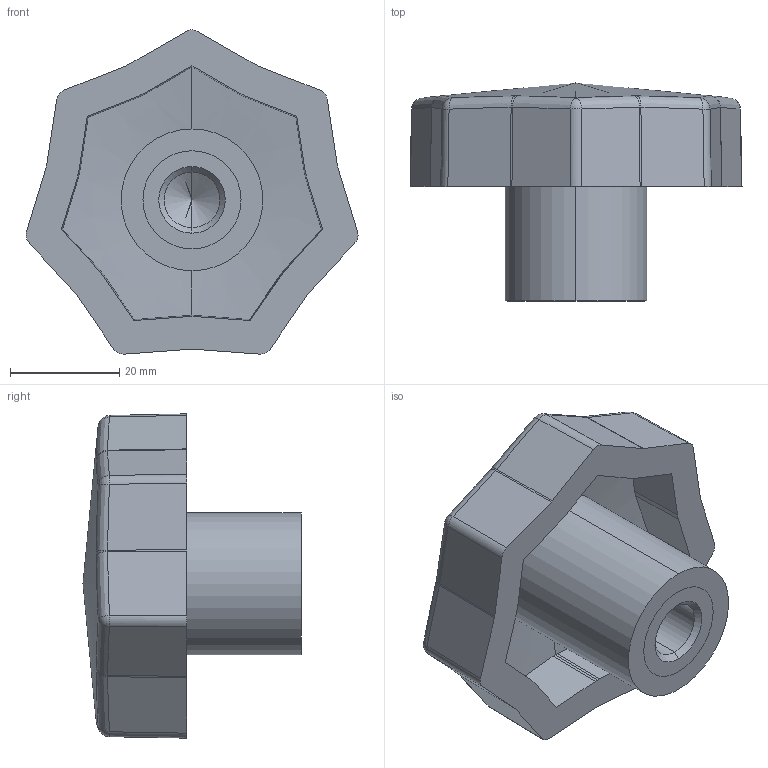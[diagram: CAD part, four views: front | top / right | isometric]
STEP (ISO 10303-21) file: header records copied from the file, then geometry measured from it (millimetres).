
FILE_DESCRIPTION (( 'STEP AP203' ), '1' );
FILE_NAME ('AP-1020-63-M12.STEP', '2015-11-23T10:20:21', ( '' ), ( '' ), 'SwSTEP 2.0', 'SolidWorks 2014', '' );
FILE_SCHEMA (( 'CONFIG_CONTROL_DESIGN' ));
Length unit declared in the file: millimetre
Products named in the file (1): AP-1020-63-M12
Bounding box: 60.89 x 40 x 59.48 mm (x, y, z)
Surface area: 18709.5 mm2 (no closed solid volume)
Topology: 0 solids, 3 shells, 124 faces, 292 edges, 178 vertices
Faces by surface type: cylinder 48, plane 40, bspline 21, cone 8, sphere 7
Entity records: 3764 total; most frequent: CARTESIAN_POINT 1098, ORIENTED_EDGE 574, DIRECTION 488, EDGE_CURVE 288, AXIS2_PLACEMENT_3D 188, VERTEX_POINT 178, EDGE_LOOP 133, FACE_OUTER_BOUND 124
